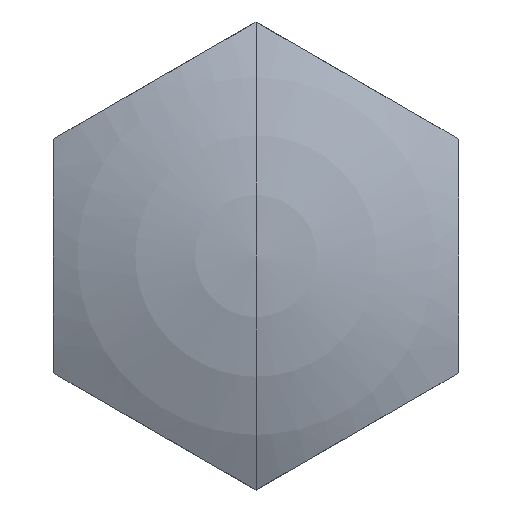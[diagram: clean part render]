
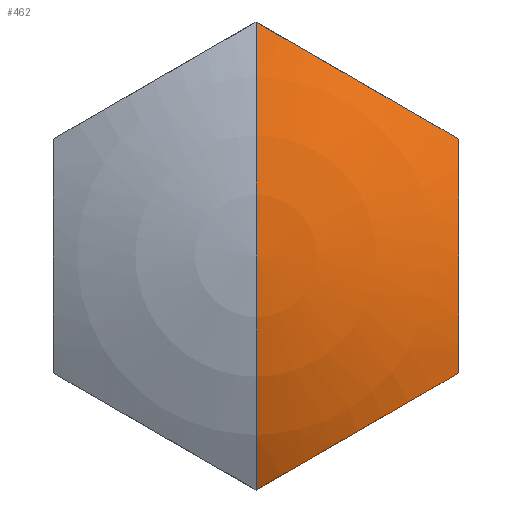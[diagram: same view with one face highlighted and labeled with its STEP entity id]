
A CAD part, left-side view. The second image highlights one B-rep face of the part: STEP entity #462.
In plain terms, the highlighted spherical face has radius 17 mm.
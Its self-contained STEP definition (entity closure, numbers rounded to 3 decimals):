
#123=CARTESIAN_POINT('',(0.,-3.5,6.062));
#124=DIRECTION('',(0.,-0.5,0.866));
#125=DIRECTION('',(-0.965,0.226,0.13));
#126=AXIS2_PLACEMENT_3D('',#123,#124,#125);
#128=CARTESIAN_POINT('',(0.,-7.,0.));
#129=DIRECTION('',(0.,-1.,0.));
#130=DIRECTION('',(-0.965,0.,0.261));
#131=AXIS2_PLACEMENT_3D('',#128,#129,#130);
#133=CARTESIAN_POINT('',(0.,-3.5,-6.062));
#134=DIRECTION('',(0.,-0.5,-0.866));
#135=DIRECTION('',(-0.965,-0.226,0.13));
#136=AXIS2_PLACEMENT_3D('',#133,#134,#135);
#171=CARTESIAN_POINT('',(0.,0.,0.));
#172=DIRECTION('',(0.,-1.,0.));
#173=DIRECTION('',(-0.88,0.,0.475));
#174=AXIS2_PLACEMENT_3D('',#171,#172,#173);
#176=CARTESIAN_POINT('',(0.,0.,0.));
#177=DIRECTION('',(0.,-1.,0.));
#178=DIRECTION('',(-1.,0.,0.));
#179=AXIS2_PLACEMENT_3D('',#176,#177,#178);
#227=CARTESIAN_POINT('',(-14.955,0.,
8.083));
#228=VERTEX_POINT('',#227);
#231=CARTESIAN_POINT('',(-14.955,-7.,4.041));
#232=VERTEX_POINT('',#231);
#233=CARTESIAN_POINT('',(-14.955,-7.,-4.041));
#234=VERTEX_POINT('',#233);
#235=CARTESIAN_POINT('',(-14.955,0.,
-8.083));
#236=VERTEX_POINT('',#235);
#237=CARTESIAN_POINT('',(-17.,0.,0.));
#238=VERTEX_POINT('',#237);
#446=CARTESIAN_POINT('',(0.,0.,0.));
#447=DIRECTION('',(-1.,0.,0.));
#448=DIRECTION('',(0.,0.,-1.));
#449=AXIS2_PLACEMENT_3D('',#446,#447,#448);
#450=SPHERICAL_SURFACE('',#449,17.);
#451=ORIENTED_EDGE('',*,*,#437,.T.);
#453=ORIENTED_EDGE('',*,*,#452,.T.);
#455=ORIENTED_EDGE('',*,*,#454,.T.);
#457=ORIENTED_EDGE('',*,*,#456,.F.);
#459=ORIENTED_EDGE('',*,*,#458,.F.);
#460=EDGE_LOOP('',(#451,#453,#455,#457,#459));
#461=FACE_OUTER_BOUND('',#460,.F.);
#462=ADVANCED_FACE('',(#461),#450,.T.);
#127=CIRCLE('',#126,15.492);
#132=CIRCLE('',#131,15.492);
#137=CIRCLE('',#136,15.492);
#175=CIRCLE('',#174,17.);
#180=CIRCLE('',#179,17.);
#437=EDGE_CURVE('',#228,#232,#127,.T.);
#452=EDGE_CURVE('',#232,#234,#132,.T.);
#454=EDGE_CURVE('',#234,#236,#137,.T.);
#456=EDGE_CURVE('',#238,#236,#180,.T.);
#458=EDGE_CURVE('',#228,#238,#175,.T.);
